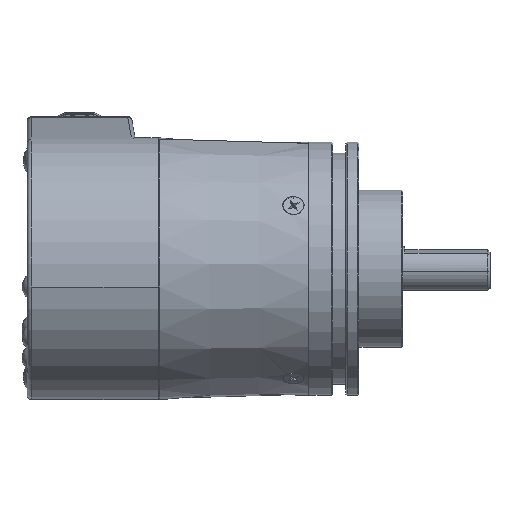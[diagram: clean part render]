
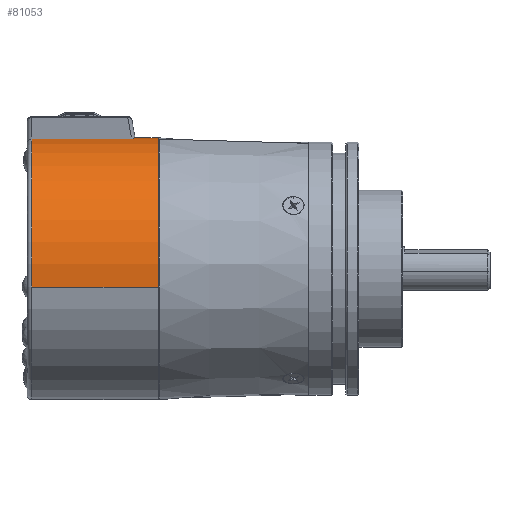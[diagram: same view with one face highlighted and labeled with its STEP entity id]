
A CAD part, front view. The second image highlights one B-rep face of the part: STEP entity #81053.
In plain terms, the highlighted cylindrical face has radius 30 mm (diameter 60 mm), a partial arc.
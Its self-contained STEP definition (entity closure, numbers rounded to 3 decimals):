
#2273 = AXIS2_PLACEMENT_3D ( 'NONE', #88777, #25150, #99433 ) ;
#2385 = ORIENTED_EDGE ( 'NONE', *, *, #74843, .F. ) ;
#2648 = LINE ( 'NONE', #123422, #83945 ) ;
#4410 = CARTESIAN_POINT ( 'NONE',  ( -55.95, -4.175, 29.708 ) ) ;
#5062 = CARTESIAN_POINT ( 'NONE',  ( -31.781, 5.232, 29.54 ) ) ;
#8739 = CARTESIAN_POINT ( 'NONE',  ( -32.878, -3.401, 29.817 ) ) ;
#12076 = EDGE_CURVE ( 'NONE', #54290, #15294, #32505, .T. ) ;
#13708 = CARTESIAN_POINT ( 'NONE',  ( -26.95, -29.708, -4.175 ) ) ;
#14161 = LINE ( 'NONE', #90680, #95527 ) ;
#15294 = VERTEX_POINT ( 'NONE', #26462 ) ;
#15989 = AXIS2_PLACEMENT_3D ( 'NONE', #114911, #51419, #125629 ) ;
#22266 = ORIENTED_EDGE ( 'NONE', *, *, #77620, .T. ) ;
#22305 = VERTEX_POINT ( 'NONE', #101669 ) ;
#22350 = EDGE_CURVE ( 'NONE', #124512, #39700, #2648, .T. ) ;
#23925 = VERTEX_POINT ( 'NONE', #44633 ) ;
#25122 = CIRCLE ( 'NONE', #15989, 30. ) ;
#25150 = DIRECTION ( 'NONE',  ( 1., 0., 0. ) ) ;
#26462 = CARTESIAN_POINT ( 'NONE',  ( -26.95, -29.708, -4.175 ) ) ;
#28769 = CARTESIAN_POINT ( 'NONE',  ( -26.95, 29.708, 4.175 ) ) ;
#31634 = ORIENTED_EDGE ( 'NONE', *, *, #70042, .T. ) ;
#31922 = FACE_OUTER_BOUND ( 'NONE', #88154, .T. ) ;
#32505 = CIRCLE ( 'NONE', #2273, 30. ) ;
#34409 = DIRECTION ( 'NONE',  ( 0., -0.99, -0.139 ) ) ;
#38491 = DIRECTION ( 'NONE',  ( -1., 0., 0. ) ) ;
#39700 = VERTEX_POINT ( 'NONE', #4410 ) ;
#40266 = CARTESIAN_POINT ( 'NONE',  ( -31.76, 4.445, 29.68 ) ) ;
#44633 = CARTESIAN_POINT ( 'NONE',  ( -31.781, 5.232, 29.54 ) ) ;
#44707 = B_SPLINE_CURVE_WITH_KNOTS ( 'NONE', 3,
 ( #103862, #40266, #114484, #50989, #125200, #61709, #135864, #72322, #8739, #82879 ),
 .UNSPECIFIED., .F., .F.,
 ( 4, 2, 2, 2, 4 ),
 ( 0., 0.002, 0.005, 0.007, 0.01 ),
 .UNSPECIFIED. ) ;
#44907 = ORIENTED_EDGE ( 'NONE', *, *, #12076, .F. ) ;
#46761 = LINE ( 'NONE', #13708, #74976 ) ;
#46871 = CYLINDRICAL_SURFACE ( 'NONE', #50666, 30. ) ;
#47278 = EDGE_CURVE ( 'NONE', #54290, #124060, #14161, .T. ) ;
#50666 = AXIS2_PLACEMENT_3D ( 'NONE', #55291, #129581, #34409 ) ;
#50975 = CARTESIAN_POINT ( 'NONE',  ( -33.034, -4.175, 29.708 ) ) ;
#50989 = CARTESIAN_POINT ( 'NONE',  ( -31.944, 2.074, 29.939 ) ) ;
#51419 = DIRECTION ( 'NONE',  ( 1., 0., 0. ) ) ;
#53452 = ORIENTED_EDGE ( 'NONE', *, *, #22350, .T. ) ;
#54290 = VERTEX_POINT ( 'NONE', #28769 ) ;
#55291 = CARTESIAN_POINT ( 'NONE',  ( -26.95, 0., 0. ) ) ;
#58008 = CARTESIAN_POINT ( 'NONE',  ( -32.332, 29.708, 4.175 ) ) ;
#61709 = CARTESIAN_POINT ( 'NONE',  ( -32.291, -0.286, 30.009 ) ) ;
#68636 = CARTESIAN_POINT ( 'NONE',  ( -32.121, 18.487, 27.193 ) ) ;
#70042 = EDGE_CURVE ( 'NONE', #23925, #124512, #44707, .T. ) ;
#71195 = ORIENTED_EDGE ( 'NONE', *, *, #106263, .T. ) ;
#72322 = CARTESIAN_POINT ( 'NONE',  ( -32.723, -2.624, 29.895 ) ) ;
#74843 = EDGE_CURVE ( 'NONE', #15294, #22305, #46761, .T. ) ;
#74976 = VECTOR ( 'NONE', #77328, 1000. ) ;
#77328 = DIRECTION ( 'NONE',  ( -1., 0., 0. ) ) ;
#77620 = EDGE_CURVE ( 'NONE', #124060, #23925, #92619, .T. ) ;
#78800 = CARTESIAN_POINT ( 'NONE',  ( -32.332, 27.835, 17.506 ) ) ;
#81053 = ADVANCED_FACE ( 'NONE', ( #31922 ), #46871, .T. ) ;
#82879 = CARTESIAN_POINT ( 'NONE',  ( -33.034, -4.175, 29.708 ) ) ;
#83945 = VECTOR ( 'NONE', #38491, 1000. ) ;
#88154 = EDGE_LOOP ( 'NONE', ( #44907, #129464, #22266, #31634, #53452, #71195, #2385 ) ) ;
#88777 = CARTESIAN_POINT ( 'NONE',  ( -26.95, 0., 0. ) ) ;
#90680 = CARTESIAN_POINT ( 'NONE',  ( -26.95, 29.708, 4.175 ) ) ;
#92619 =( BOUNDED_CURVE ( )  B_SPLINE_CURVE ( 3, ( #58008, #78800, #68636, #5062 ),
 .UNSPECIFIED., .F., .T. ) 
 B_SPLINE_CURVE_WITH_KNOTS ( ( 4, 4 ),
 ( 0., 1.256 ),
 .UNSPECIFIED. ) 
 CURVE ( )  GEOMETRIC_REPRESENTATION_ITEM ( )  RATIONAL_B_SPLINE_CURVE ( ( 1., 0.873, 0.873, 1. ) ) 
 REPRESENTATION_ITEM ( '' )  );
#95527 = VECTOR ( 'NONE', #135719, 1000. ) ;
#99433 = DIRECTION ( 'NONE',  ( 0., 0.99, 0.139 ) ) ;
#101669 = CARTESIAN_POINT ( 'NONE',  ( -55.95, -29.708, -4.175 ) ) ;
#103862 = CARTESIAN_POINT ( 'NONE',  ( -31.781, 5.232, 29.54 ) ) ;
#106263 = EDGE_CURVE ( 'NONE', #39700, #22305, #25122, .T. ) ;
#114484 = CARTESIAN_POINT ( 'NONE',  ( -31.801, 3.656, 29.787 ) ) ;
#114911 = CARTESIAN_POINT ( 'NONE',  ( -55.95, 0., 0. ) ) ;
#123422 = CARTESIAN_POINT ( 'NONE',  ( -32.95, -4.175, 29.708 ) ) ;
#124060 = VERTEX_POINT ( 'NONE', #134507 ) ;
#124512 = VERTEX_POINT ( 'NONE', #50975 ) ;
#125200 = CARTESIAN_POINT ( 'NONE',  ( -32.048, 1.283, 29.983 ) ) ;
#125629 = DIRECTION ( 'NONE',  ( 0., 0.99, 0.139 ) ) ;
#129464 = ORIENTED_EDGE ( 'NONE', *, *, #47278, .T. ) ;
#129581 = DIRECTION ( 'NONE',  ( -1., 0., 0. ) ) ;
#134507 = CARTESIAN_POINT ( 'NONE',  ( -32.332, 29.708, 4.175 ) ) ;
#135719 = DIRECTION ( 'NONE',  ( -1., 0., 0. ) ) ;
#135864 = CARTESIAN_POINT ( 'NONE',  ( -32.429, -1.067, 29.991 ) ) ;
